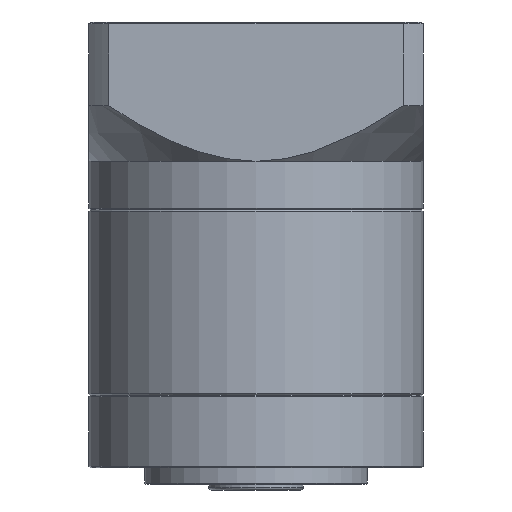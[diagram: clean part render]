
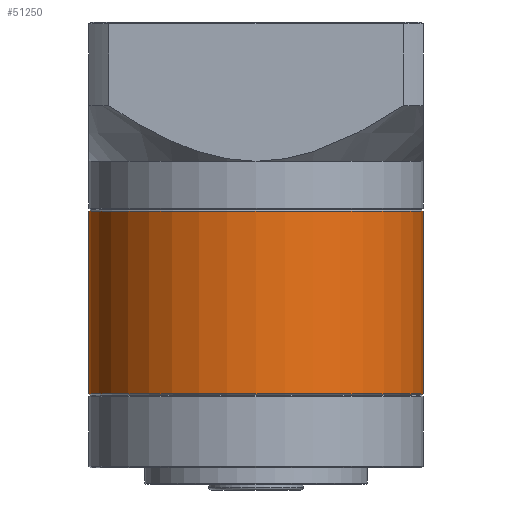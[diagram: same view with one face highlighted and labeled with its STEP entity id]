
A CAD part, front view. The second image highlights one B-rep face of the part: STEP entity #51250.
In plain terms, the highlighted cylindrical face has radius 30 mm (diameter 60 mm), a partial arc.
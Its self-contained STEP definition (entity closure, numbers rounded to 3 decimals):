
#3744 = LINE ( 'NONE', #36008, #38693 ) ;
#4903 = DIRECTION ( 'NONE',  ( 0., 0., -1. ) ) ;
#5956 = CYLINDRICAL_SURFACE ( 'NONE', #32450, 30. ) ;
#6267 = CARTESIAN_POINT ( 'NONE',  ( -68.862, 23.581, -18.179 ) ) ;
#8222 = CARTESIAN_POINT ( 'NONE',  ( -38.862, 23.581, -18.429 ) ) ;
#12143 = EDGE_LOOP ( 'NONE', ( #41816, #50951, #26551, #26423 ) ) ;
#22227 = CIRCLE ( 'NONE', #63074, 30. ) ;
#26423 = ORIENTED_EDGE ( 'NONE', *, *, #47793, .T. ) ;
#26551 = ORIENTED_EDGE ( 'NONE', *, *, #44620, .T. ) ;
#28288 = CARTESIAN_POINT ( 'NONE',  ( -68.862, 23.581, -51.229 ) ) ;
#29912 = VECTOR ( 'NONE', #79844, 1000. ) ;
#31463 = VERTEX_POINT ( 'NONE', #46558 ) ;
#32450 = AXIS2_PLACEMENT_3D ( 'NONE', #6267, #62634, #90846 ) ;
#34476 = AXIS2_PLACEMENT_3D ( 'NONE', #28288, #77459, #35358 ) ;
#35358 = DIRECTION ( 'NONE',  ( 1., 0., 0. ) ) ;
#36008 = CARTESIAN_POINT ( 'NONE',  ( -98.862, 23.581, -18.179 ) ) ;
#37449 = CARTESIAN_POINT ( 'NONE',  ( -38.862, 23.581, -18.179 ) ) ;
#37799 = VERTEX_POINT ( 'NONE', #52474 ) ;
#38693 = VECTOR ( 'NONE', #84879, 1000. ) ;
#39702 = CARTESIAN_POINT ( 'NONE',  ( -98.862, 23.581, -51.229 ) ) ;
#40279 = EDGE_CURVE ( 'NONE', #44652, #37799, #48587, .T. ) ;
#41816 = ORIENTED_EDGE ( 'NONE', *, *, #40279, .F. ) ;
#43666 = CIRCLE ( 'NONE', #34476, 30. ) ;
#44620 = EDGE_CURVE ( 'NONE', #31463, #75189, #3744, .T. ) ;
#44652 = VERTEX_POINT ( 'NONE', #8222 ) ;
#46558 = CARTESIAN_POINT ( 'NONE',  ( -98.862, 23.581, -18.429 ) ) ;
#46785 = CARTESIAN_POINT ( 'NONE',  ( -68.862, 23.581, -18.429 ) ) ;
#47793 = EDGE_CURVE ( 'NONE', #75189, #37799, #43666, .T. ) ;
#48587 = LINE ( 'NONE', #37449, #29912 ) ;
#50951 = ORIENTED_EDGE ( 'NONE', *, *, #75186, .T. ) ;
#51250 = ADVANCED_FACE ( 'NONE', ( #68487 ), #5956, .T. ) ;
#52474 = CARTESIAN_POINT ( 'NONE',  ( -38.862, 23.581, -51.229 ) ) ;
#53859 = DIRECTION ( 'NONE',  ( 1., 0., 0. ) ) ;
#62634 = DIRECTION ( 'NONE',  ( 0., 0., -1. ) ) ;
#63074 = AXIS2_PLACEMENT_3D ( 'NONE', #46785, #4903, #53859 ) ;
#68487 = FACE_OUTER_BOUND ( 'NONE', #12143, .T. ) ;
#75186 = EDGE_CURVE ( 'NONE', #44652, #31463, #22227, .T. ) ;
#75189 = VERTEX_POINT ( 'NONE', #39702 ) ;
#77459 = DIRECTION ( 'NONE',  ( 0., 0., 1. ) ) ;
#79844 = DIRECTION ( 'NONE',  ( 0., 0., -1. ) ) ;
#84879 = DIRECTION ( 'NONE',  ( 0., 0., -1. ) ) ;
#90846 = DIRECTION ( 'NONE',  ( -1., 0., 0. ) ) ;
